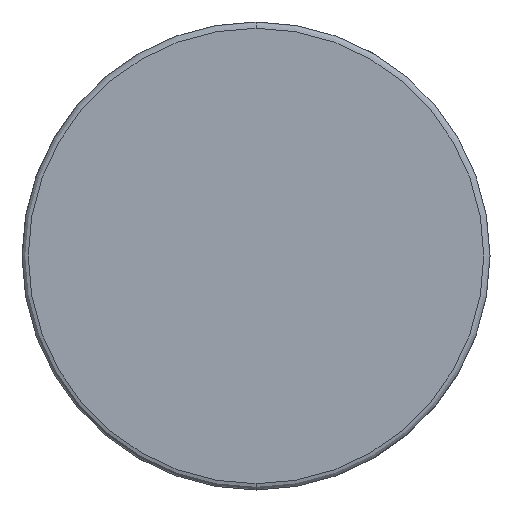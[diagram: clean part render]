
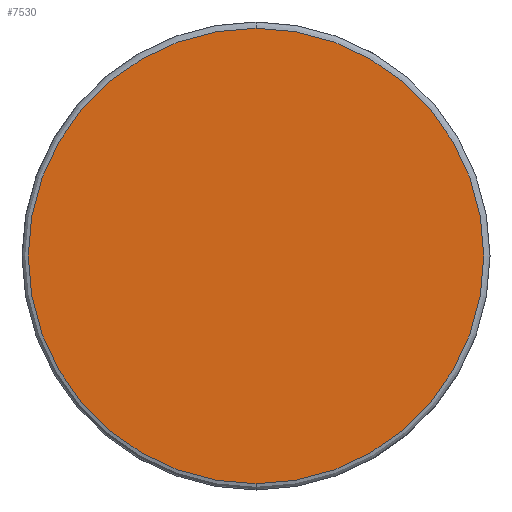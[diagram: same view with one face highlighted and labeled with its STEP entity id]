
A CAD part, front view. The second image highlights one B-rep face of the part: STEP entity #7530.
In plain terms, the highlighted planar face has unit normal (0, -1, 0).
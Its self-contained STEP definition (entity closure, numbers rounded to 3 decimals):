
#81 = CARTESIAN_POINT ( 'NONE',  ( 0., 0., 0. ) ) ;
#905 = DIRECTION ( 'NONE',  ( 0., 0., 1. ) ) ;
#1336 = DIRECTION ( 'NONE',  ( 0., 1., 0. ) ) ;
#1708 = DIRECTION ( 'NONE',  ( 0., -1., 0. ) ) ;
#2383 = EDGE_CURVE ( 'NONE', #3048, #7073, #9645, .T. ) ;
#3048 = VERTEX_POINT ( 'NONE', #9780 ) ;
#3668 = AXIS2_PLACEMENT_3D ( 'NONE', #81, #5813, #905 ) ;
#5407 = PLANE ( 'NONE',  #9459 ) ;
#5813 = DIRECTION ( 'NONE',  ( 0., -1., 0. ) ) ;
#6602 = CARTESIAN_POINT ( 'NONE',  ( 0., 0., 0. ) ) ;
#6935 = FACE_OUTER_BOUND ( 'NONE', #9629, .T. ) ;
#7021 = CARTESIAN_POINT ( 'NONE',  ( 0., 0., 0. ) ) ;
#7060 = DIRECTION ( 'NONE',  ( 0., 0., 1. ) ) ;
#7073 = VERTEX_POINT ( 'NONE', #8439 ) ;
#7218 = AXIS2_PLACEMENT_3D ( 'NONE', #6602, #1708, #7439 ) ;
#7309 = CIRCLE ( 'NONE', #3668, 14.6 ) ;
#7439 = DIRECTION ( 'NONE',  ( 0., 0., 1. ) ) ;
#7530 = ADVANCED_FACE ( 'NONE', ( #6935 ), #5407, .F. ) ;
#8259 = EDGE_CURVE ( 'NONE', #7073, #3048, #7309, .T. ) ;
#8385 = ORIENTED_EDGE ( 'NONE', *, *, #2383, .T. ) ;
#8439 = CARTESIAN_POINT ( 'NONE',  ( 0., 0., -14.6 ) ) ;
#9459 = AXIS2_PLACEMENT_3D ( 'NONE', #7021, #1336, #7060 ) ;
#9629 = EDGE_LOOP ( 'NONE', ( #8385, #10058 ) ) ;
#9645 = CIRCLE ( 'NONE', #7218, 14.6 ) ;
#9780 = CARTESIAN_POINT ( 'NONE',  ( 0., 0., 14.6 ) ) ;
#10058 = ORIENTED_EDGE ( 'NONE', *, *, #8259, .T. ) ;
